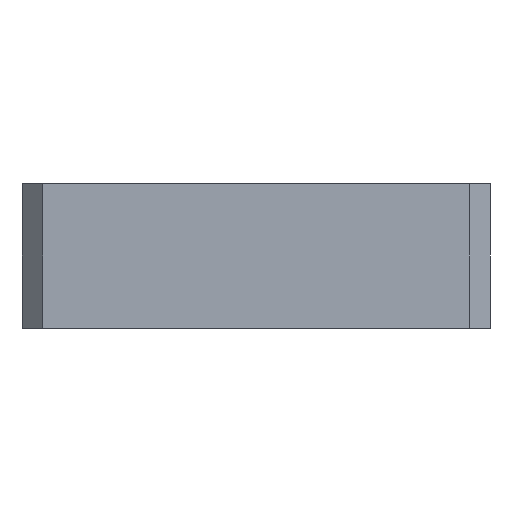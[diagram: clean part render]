
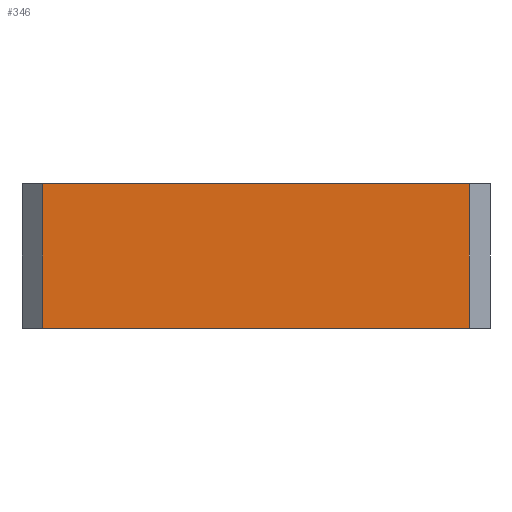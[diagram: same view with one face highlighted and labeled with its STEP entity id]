
A CAD part, left-side view. The second image highlights one B-rep face of the part: STEP entity #346.
In plain terms, the highlighted planar face has unit normal (-1, 0, 0).
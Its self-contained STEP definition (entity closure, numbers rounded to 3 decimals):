
#11 = DIRECTION ( 'NONE',  ( 0., 0., -1. ) ) ;
#15 = CARTESIAN_POINT ( 'NONE',  ( -21.7, -17.6, 0. ) ) ;
#94 = CARTESIAN_POINT ( 'NONE',  ( -21.7, -17.6, 7. ) ) ;
#114 = EDGE_CURVE ( 'NONE', #1666, #566, #602, .T. ) ;
#160 = ORIENTED_EDGE ( 'NONE', *, *, #1128, .F. ) ;
#184 = DIRECTION ( 'NONE',  ( 0., 0., -1. ) ) ;
#187 = CARTESIAN_POINT ( 'NONE',  ( -21.7, -17.6, 7. ) ) ;
#248 = ORIENTED_EDGE ( 'NONE', *, *, #1419, .T. ) ;
#264 = DIRECTION ( 'NONE',  ( 0., -1., 0. ) ) ;
#346 = ADVANCED_FACE ( 'NONE', ( #760 ), #711, .F. ) ;
#351 = DIRECTION ( 'NONE',  ( 1., 0., 0. ) ) ;
#354 = LINE ( 'NONE', #187, #1251 ) ;
#420 = CARTESIAN_POINT ( 'NONE',  ( -21.7, -17.6, 0. ) ) ;
#523 = CARTESIAN_POINT ( 'NONE',  ( -21.7, -17.6, 7. ) ) ;
#566 = VERTEX_POINT ( 'NONE', #15 ) ;
#602 = LINE ( 'NONE', #420, #889 ) ;
#711 = PLANE ( 'NONE',  #773 ) ;
#724 = EDGE_LOOP ( 'NONE', ( #1188, #160, #1144, #248 ) ) ;
#760 = FACE_OUTER_BOUND ( 'NONE', #724, .T. ) ;
#773 = AXIS2_PLACEMENT_3D ( 'NONE', #523, #351, #184 ) ;
#799 = CARTESIAN_POINT ( 'NONE',  ( -21.7, 3., 0. ) ) ;
#889 = VECTOR ( 'NONE', #264, 1000. ) ;
#925 = DIRECTION ( 'NONE',  ( 0., -1., 0. ) ) ;
#1023 = VECTOR ( 'NONE', #1340, 1000. ) ;
#1080 = VERTEX_POINT ( 'NONE', #94 ) ;
#1098 = CARTESIAN_POINT ( 'NONE',  ( -21.7, -17.6, 7. ) ) ;
#1128 = EDGE_CURVE ( 'NONE', #1080, #566, #354, .T. ) ;
#1144 = ORIENTED_EDGE ( 'NONE', *, *, #1210, .F. ) ;
#1188 = ORIENTED_EDGE ( 'NONE', *, *, #114, .T. ) ;
#1198 = VERTEX_POINT ( 'NONE', #1312 ) ;
#1210 = EDGE_CURVE ( 'NONE', #1198, #1080, #1267, .T. ) ;
#1251 = VECTOR ( 'NONE', #11, 1000. ) ;
#1267 = LINE ( 'NONE', #1098, #1485 ) ;
#1312 = CARTESIAN_POINT ( 'NONE',  ( -21.7, 3., 7. ) ) ;
#1340 = DIRECTION ( 'NONE',  ( 0., 0., -1. ) ) ;
#1419 = EDGE_CURVE ( 'NONE', #1198, #1666, #1658, .T. ) ;
#1485 = VECTOR ( 'NONE', #925, 1000. ) ;
#1502 = CARTESIAN_POINT ( 'NONE',  ( -21.7, 3., 7. ) ) ;
#1658 = LINE ( 'NONE', #1502, #1023 ) ;
#1666 = VERTEX_POINT ( 'NONE', #799 ) ;
